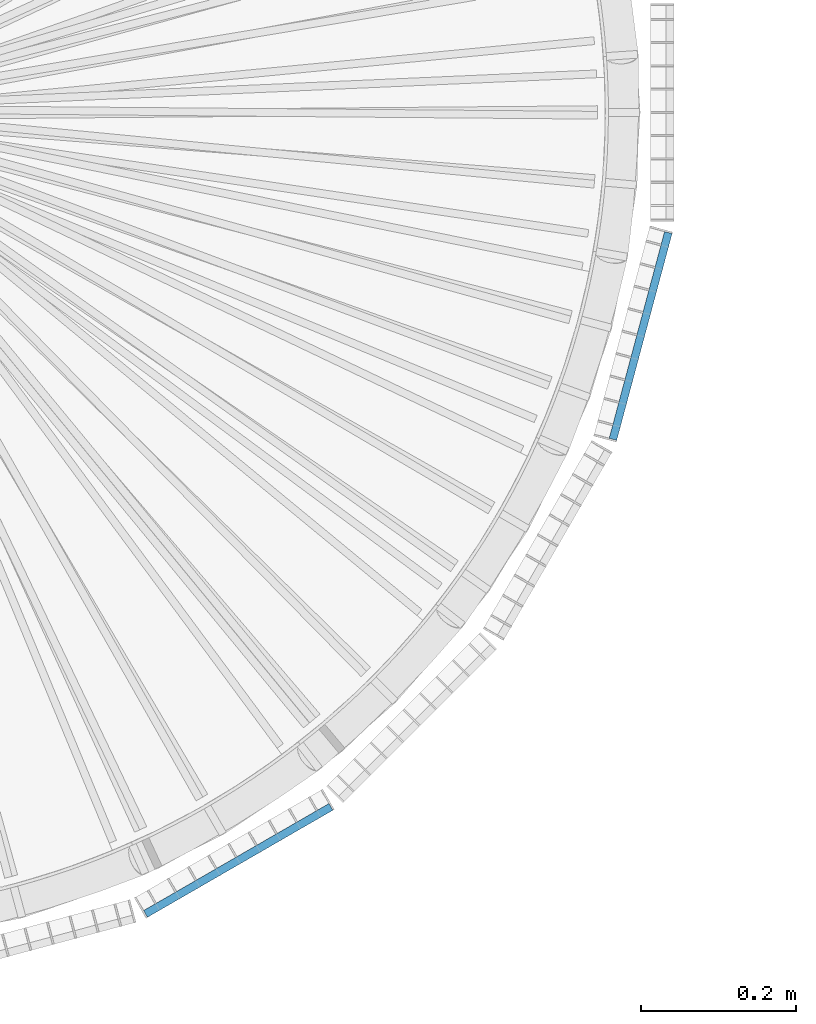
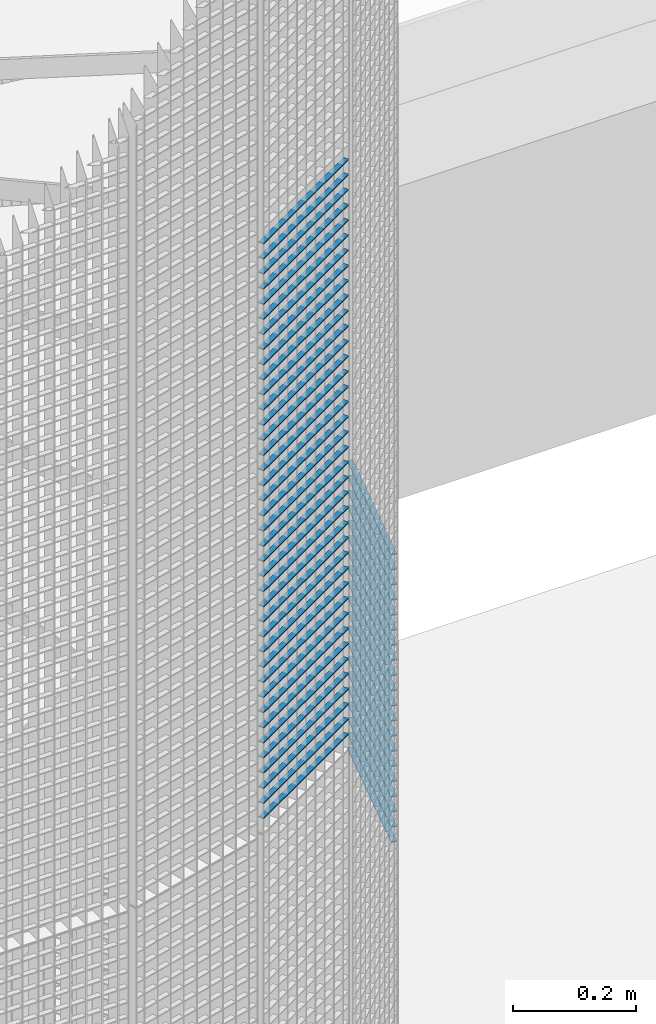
# One storey, part 236 of 1183: 59 beams, 2 elements without a shape of their own.
"""IFC2X3 building model written with IfcOpenShell, lengths in millimetres."""

from ifc_helpers import new_model, si_unit, frame, origin_with_axes, origin_2d_with_axis, place, context, subcontext, project, spatial, rectangle, extrude, material, type_object, element, aggregate, save


model = new_model("IFC2X3")

# Units and contexts
model_context = context("Model", 3, precision=1e-05, world=origin_with_axes())
body_context = subcontext(model_context, "Body", "Model", "MODEL_VIEW")
ifc_project = project(units=[si_unit("LENGTHUNIT", "METRE", prefix="MILLI"), si_unit("AREAUNIT", "SQUARE_METRE"), si_unit("VOLUMEUNIT", "CUBIC_METRE"), si_unit("MASSUNIT", "GRAM", prefix="KILO"), si_unit("TIMEUNIT", "SECOND"), si_unit("PLANEANGLEUNIT", "RADIAN"), si_unit("SOLIDANGLEUNIT", "STERADIAN"), si_unit("THERMODYNAMICTEMPERATUREUNIT", "DEGREE_CELSIUS"), si_unit("LUMINOUSINTENSITYUNIT", "LUMEN")], contexts=[model_context])

# Site, building, storey
site_placement = place(None, origin_with_axes())
site = spatial("IfcSite", under=ifc_project, at=site_placement, Name="Undefined", CompositionType="ELEMENT")
building_placement = place(site_placement, origin_with_axes())
building = spatial("IfcBuilding", under=site, at=building_placement, Name="Undefined", CompositionType="ELEMENT")
storey_placement = place(building_placement, origin_with_axes())
storey = spatial("IfcBuildingStorey", under=building, at=storey_placement, Name="Undefined", CompositionType="ELEMENT", Elevation=0.0)

# Assembly, beams
assembly_1_placement = place(storey_placement, origin_with_axes())
assembly_1 = element("IfcElementAssembly", 1, at=assembly_1_placement, inside=storey, Name="BORDURE", AssemblyPlace="NOTDEFINED", PredefinedType="NOTDEFINED")
ifc_material = material(Name="STEEL/S235JR")
beam_type = type_object("IfcBeamType", Name="PL2*10", PredefinedType="NOTDEFINED")
beam_1_placement = place(assembly_1_placement, frame((437.231955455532, -1033.29996828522, 16170.0), z_axis=(0.499999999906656, -0.866025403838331, 0.0), x_axis=(0.866025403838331, 0.499999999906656, 0.0)))
beam_1 = element("IfcBeam", 2, at=beam_1_placement, type_object=beam_type, material=ifc_material, Name="ENTRETOISE", context=body_context, shape_type="SweptSolid", body=[
    extrude(rectangle(XDim=2.0, YDim=10.0, at=origin_2d_with_axis()), frame((275.999999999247, 9.09494701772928e-13, 1.53210777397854e-14), z_axis=(-1.0, 0.0, 0.0), x_axis=(0.0, -1.0, 0.0)), (0.0, 0.0, 1.0), 276.0),
])
beam_2_placement = place(assembly_1_placement, frame((437.231955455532, -1033.29996828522, 16140.0), z_axis=(0.499999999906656, -0.866025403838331, 0.0), x_axis=(0.866025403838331, 0.499999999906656, 0.0)))
beam_2 = element("IfcBeam", 3, at=beam_2_placement, type_object=beam_type, material=ifc_material, Name="ENTRETOISE", context=body_context, shape_type="SweptSolid", body=[
    extrude(rectangle(XDim=2.0, YDim=10.0, at=origin_2d_with_axis()), frame((275.999999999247, 9.09494701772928e-13, 1.53210777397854e-14), z_axis=(-1.0, 0.0, 0.0), x_axis=(0.0, -1.0, 0.0)), (0.0, 0.0, 1.0), 276.0),
])
beam_3_placement = place(assembly_1_placement, frame((437.231955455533, -1033.29996828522, 15720.0), z_axis=(0.499999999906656, -0.866025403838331, 0.0), x_axis=(0.866025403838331, 0.499999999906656, 0.0)))
beam_3 = element("IfcBeam", 4, at=beam_3_placement, type_object=beam_type, material=ifc_material, Name="ENTRETOISE", context=body_context, shape_type="SweptSolid", body=[
    extrude(rectangle(XDim=2.0, YDim=10.0, at=origin_2d_with_axis()), frame((275.999999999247, 9.09494701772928e-13, 1.53210777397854e-14), z_axis=(-1.0, 0.0, 0.0), x_axis=(0.0, -1.0, 0.0)), (0.0, 0.0, 1.0), 276.0),
])
beam_4_placement = place(assembly_1_placement, frame((437.231955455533, -1033.29996828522, 15690.0), z_axis=(0.499999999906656, -0.866025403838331, 0.0), x_axis=(0.866025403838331, 0.499999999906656, 0.0)))
beam_4 = element("IfcBeam", 5, at=beam_4_placement, type_object=beam_type, material=ifc_material, Name="ENTRETOISE", context=body_context, shape_type="SweptSolid", body=[
    extrude(rectangle(XDim=2.0, YDim=10.0, at=origin_2d_with_axis()), frame((275.999999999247, 9.09494701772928e-13, 1.53210777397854e-14), z_axis=(-1.0, 0.0, 0.0), x_axis=(0.0, -1.0, 0.0)), (0.0, 0.0, 1.0), 276.0),
])
beam_5_placement = place(assembly_1_placement, frame((437.231955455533, -1033.29996828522, 15750.0), z_axis=(0.499999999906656, -0.866025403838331, 0.0), x_axis=(0.866025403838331, 0.499999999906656, 0.0)))
beam_5 = element("IfcBeam", 6, at=beam_5_placement, type_object=beam_type, material=ifc_material, Name="ENTRETOISE", context=body_context, shape_type="SweptSolid", body=[
    extrude(rectangle(XDim=2.0, YDim=10.0, at=origin_2d_with_axis()), frame((275.999999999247, 9.09494701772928e-13, 1.53210777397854e-14), z_axis=(-1.0, 0.0, 0.0), x_axis=(0.0, -1.0, 0.0)), (0.0, 0.0, 1.0), 276.0),
])
beam_6_placement = place(assembly_1_placement, frame((437.231955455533, -1033.29996828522, 15660.0), z_axis=(0.499999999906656, -0.866025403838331, 0.0), x_axis=(0.866025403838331, 0.499999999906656, 0.0)))
beam_6 = element("IfcBeam", 7, at=beam_6_placement, type_object=beam_type, material=ifc_material, Name="ENTRETOISE", context=body_context, shape_type="SweptSolid", body=[
    extrude(rectangle(XDim=2.0, YDim=10.0, at=origin_2d_with_axis()), frame((275.999999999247, 9.09494701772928e-13, 1.53210777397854e-14), z_axis=(-1.0, 0.0, 0.0), x_axis=(0.0, -1.0, 0.0)), (0.0, 0.0, 1.0), 276.0),
])
beam_7_placement = place(assembly_1_placement, frame((437.231955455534, -1033.29996828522, 15630.0), z_axis=(0.499999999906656, -0.866025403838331, 0.0), x_axis=(0.866025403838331, 0.499999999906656, 0.0)))
beam_7 = element("IfcBeam", 8, at=beam_7_placement, type_object=beam_type, material=ifc_material, Name="ENTRETOISE", context=body_context, shape_type="SweptSolid", body=[
    extrude(rectangle(XDim=2.0, YDim=10.0, at=origin_2d_with_axis()), frame((275.999999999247, 9.09494701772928e-13, 1.53210777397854e-14), z_axis=(-1.0, 0.0, 0.0), x_axis=(0.0, -1.0, 0.0)), (0.0, 0.0, 1.0), 276.0),
])
beam_8_placement = place(assembly_1_placement, frame((437.231955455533, -1033.29996828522, 15780.0), z_axis=(0.499999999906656, -0.866025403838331, 0.0), x_axis=(0.866025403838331, 0.499999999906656, 0.0)))
beam_8 = element("IfcBeam", 9, at=beam_8_placement, type_object=beam_type, material=ifc_material, Name="ENTRETOISE", context=body_context, shape_type="SweptSolid", body=[
    extrude(rectangle(XDim=2.0, YDim=10.0, at=origin_2d_with_axis()), frame((275.999999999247, 9.09494701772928e-13, 1.53210777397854e-14), z_axis=(-1.0, 0.0, 0.0), x_axis=(0.0, -1.0, 0.0)), (0.0, 0.0, 1.0), 276.0),
])
beam_9_placement = place(assembly_1_placement, frame((437.231955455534, -1033.29996828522, 15600.0), z_axis=(0.499999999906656, -0.866025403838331, 0.0), x_axis=(0.866025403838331, 0.499999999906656, 0.0)))
beam_9 = element("IfcBeam", 10, at=beam_9_placement, type_object=beam_type, material=ifc_material, Name="ENTRETOISE", context=body_context, shape_type="SweptSolid", body=[
    extrude(rectangle(XDim=2.0, YDim=10.0, at=origin_2d_with_axis()), frame((275.999999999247, 9.09494701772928e-13, 1.53210777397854e-14), z_axis=(-1.0, 0.0, 0.0), x_axis=(0.0, -1.0, 0.0)), (0.0, 0.0, 1.0), 276.0),
])
beam_10_placement = place(assembly_1_placement, frame((437.231955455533, -1033.29996828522, 15810.0), z_axis=(0.499999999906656, -0.866025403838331, 0.0), x_axis=(0.866025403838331, 0.499999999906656, 0.0)))
beam_10 = element("IfcBeam", 11, at=beam_10_placement, type_object=beam_type, material=ifc_material, Name="ENTRETOISE", context=body_context, shape_type="SweptSolid", body=[
    extrude(rectangle(XDim=2.0, YDim=10.0, at=origin_2d_with_axis()), frame((275.999999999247, 9.09494701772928e-13, 1.53210777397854e-14), z_axis=(-1.0, 0.0, 0.0), x_axis=(0.0, -1.0, 0.0)), (0.0, 0.0, 1.0), 276.0),
])
beam_11_placement = place(assembly_1_placement, frame((437.231955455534, -1033.29996828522, 15570.0), z_axis=(0.499999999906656, -0.866025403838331, 0.0), x_axis=(0.866025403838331, 0.499999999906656, 0.0)))
beam_11 = element("IfcBeam", 12, at=beam_11_placement, type_object=beam_type, material=ifc_material, Name="ENTRETOISE", context=body_context, shape_type="SweptSolid", body=[
    extrude(rectangle(XDim=2.0, YDim=10.0, at=origin_2d_with_axis()), frame((275.999999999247, 9.09494701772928e-13, 1.53210777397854e-14), z_axis=(-1.0, 0.0, 0.0), x_axis=(0.0, -1.0, 0.0)), (0.0, 0.0, 1.0), 276.0),
])
beam_12_placement = place(assembly_1_placement, frame((437.231955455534, -1033.29996828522, 15540.0), z_axis=(0.499999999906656, -0.866025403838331, 0.0), x_axis=(0.866025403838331, 0.499999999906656, 0.0)))
beam_12 = element("IfcBeam", 13, at=beam_12_placement, type_object=beam_type, material=ifc_material, Name="ENTRETOISE", context=body_context, shape_type="SweptSolid", body=[
    extrude(rectangle(XDim=2.0, YDim=10.0, at=origin_2d_with_axis()), frame((275.999999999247, 9.09494701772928e-13, 1.53210777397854e-14), z_axis=(-1.0, 0.0, 0.0), x_axis=(0.0, -1.0, 0.0)), (0.0, 0.0, 1.0), 276.0),
])
beam_13_placement = place(assembly_1_placement, frame((437.231955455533, -1033.29996828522, 15840.0), z_axis=(0.499999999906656, -0.866025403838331, 0.0), x_axis=(0.866025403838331, 0.499999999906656, 0.0)))
beam_13 = element("IfcBeam", 14, at=beam_13_placement, type_object=beam_type, material=ifc_material, Name="ENTRETOISE", context=body_context, shape_type="SweptSolid", body=[
    extrude(rectangle(XDim=2.0, YDim=10.0, at=origin_2d_with_axis()), frame((275.999999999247, 9.09494701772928e-13, 1.53210777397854e-14), z_axis=(-1.0, 0.0, 0.0), x_axis=(0.0, -1.0, 0.0)), (0.0, 0.0, 1.0), 276.0),
])
beam_14_placement = place(assembly_1_placement, frame((437.231955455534, -1033.29996828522, 15510.0), z_axis=(0.499999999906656, -0.866025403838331, 0.0), x_axis=(0.866025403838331, 0.499999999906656, 0.0)))
beam_14 = element("IfcBeam", 15, at=beam_14_placement, type_object=beam_type, material=ifc_material, Name="ENTRETOISE", context=body_context, shape_type="SweptSolid", body=[
    extrude(rectangle(XDim=2.0, YDim=10.0, at=origin_2d_with_axis()), frame((275.999999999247, 9.09494701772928e-13, 1.53210777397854e-14), z_axis=(-1.0, 0.0, 0.0), x_axis=(0.0, -1.0, 0.0)), (0.0, 0.0, 1.0), 276.0),
])
beam_15_placement = place(assembly_1_placement, frame((437.231955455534, -1033.29996828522, 15480.0), z_axis=(0.499999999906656, -0.866025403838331, 0.0), x_axis=(0.866025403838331, 0.499999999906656, 0.0)))
beam_15 = element("IfcBeam", 16, at=beam_15_placement, type_object=beam_type, material=ifc_material, Name="ENTRETOISE", context=body_context, shape_type="SweptSolid", body=[
    extrude(rectangle(XDim=2.0, YDim=10.0, at=origin_2d_with_axis()), frame((275.999999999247, 9.09494701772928e-13, 1.53210777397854e-14), z_axis=(-1.0, 0.0, 0.0), x_axis=(0.0, -1.0, 0.0)), (0.0, 0.0, 1.0), 276.0),
])
beam_16_placement = place(assembly_1_placement, frame((437.231955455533, -1033.29996828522, 15870.0), z_axis=(0.499999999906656, -0.866025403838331, 0.0), x_axis=(0.866025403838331, 0.499999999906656, 0.0)))
beam_16 = element("IfcBeam", 17, at=beam_16_placement, type_object=beam_type, material=ifc_material, Name="ENTRETOISE", context=body_context, shape_type="SweptSolid", body=[
    extrude(rectangle(XDim=2.0, YDim=10.0, at=origin_2d_with_axis()), frame((275.999999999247, 9.09494701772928e-13, 1.53210777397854e-14), z_axis=(-1.0, 0.0, 0.0), x_axis=(0.0, -1.0, 0.0)), (0.0, 0.0, 1.0), 276.0),
])
beam_17_placement = place(assembly_1_placement, frame((437.231955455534, -1033.29996828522, 15450.0), z_axis=(0.499999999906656, -0.866025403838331, 0.0), x_axis=(0.866025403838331, 0.499999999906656, 0.0)))
beam_17 = element("IfcBeam", 18, at=beam_17_placement, type_object=beam_type, material=ifc_material, Name="ENTRETOISE", context=body_context, shape_type="SweptSolid", body=[
    extrude(rectangle(XDim=2.0, YDim=10.0, at=origin_2d_with_axis()), frame((275.999999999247, 9.09494701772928e-13, 1.53210777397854e-14), z_axis=(-1.0, 0.0, 0.0), x_axis=(0.0, -1.0, 0.0)), (0.0, 0.0, 1.0), 276.0),
])
beam_18_placement = place(assembly_1_placement, frame((437.231955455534, -1033.29996828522, 15420.0), z_axis=(0.499999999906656, -0.866025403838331, 0.0), x_axis=(0.866025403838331, 0.499999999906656, 0.0)))
beam_18 = element("IfcBeam", 19, at=beam_18_placement, type_object=beam_type, material=ifc_material, Name="ENTRETOISE", context=body_context, shape_type="SweptSolid", body=[
    extrude(rectangle(XDim=2.0, YDim=10.0, at=origin_2d_with_axis()), frame((275.999999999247, 9.09494701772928e-13, 1.53210777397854e-14), z_axis=(-1.0, 0.0, 0.0), x_axis=(0.0, -1.0, 0.0)), (0.0, 0.0, 1.0), 276.0),
])
beam_19_placement = place(assembly_1_placement, frame((437.231955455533, -1033.29996828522, 15900.0), z_axis=(0.499999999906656, -0.866025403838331, 0.0), x_axis=(0.866025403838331, 0.499999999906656, 0.0)))
beam_19 = element("IfcBeam", 20, at=beam_19_placement, type_object=beam_type, material=ifc_material, Name="ENTRETOISE", context=body_context, shape_type="SweptSolid", body=[
    extrude(rectangle(XDim=2.0, YDim=10.0, at=origin_2d_with_axis()), frame((275.999999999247, 9.09494701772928e-13, 1.53210777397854e-14), z_axis=(-1.0, 0.0, 0.0), x_axis=(0.0, -1.0, 0.0)), (0.0, 0.0, 1.0), 276.0),
])
beam_20_placement = place(assembly_1_placement, frame((437.231955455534, -1033.29996828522, 15390.0), z_axis=(0.499999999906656, -0.866025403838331, 0.0), x_axis=(0.866025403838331, 0.499999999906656, 0.0)))
beam_20 = element("IfcBeam", 21, at=beam_20_placement, type_object=beam_type, material=ifc_material, Name="ENTRETOISE", context=body_context, shape_type="SweptSolid", body=[
    extrude(rectangle(XDim=2.0, YDim=10.0, at=origin_2d_with_axis()), frame((275.999999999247, 9.09494701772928e-13, 1.53210777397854e-14), z_axis=(-1.0, 0.0, 0.0), x_axis=(0.0, -1.0, 0.0)), (0.0, 0.0, 1.0), 276.0),
])
beam_21_placement = place(assembly_1_placement, frame((437.231955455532, -1033.29996828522, 15930.0), z_axis=(0.499999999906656, -0.866025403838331, 0.0), x_axis=(0.866025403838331, 0.499999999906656, 0.0)))
beam_21 = element("IfcBeam", 22, at=beam_21_placement, type_object=beam_type, material=ifc_material, Name="ENTRETOISE", context=body_context, shape_type="SweptSolid", body=[
    extrude(rectangle(XDim=2.0, YDim=10.0, at=origin_2d_with_axis()), frame((275.999999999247, 9.09494701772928e-13, 1.53210777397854e-14), z_axis=(-1.0, 0.0, 0.0), x_axis=(0.0, -1.0, 0.0)), (0.0, 0.0, 1.0), 276.0),
])
beam_22_placement = place(assembly_1_placement, frame((437.231955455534, -1033.29996828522, 15360.0), z_axis=(0.499999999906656, -0.866025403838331, 0.0), x_axis=(0.866025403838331, 0.499999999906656, 0.0)))
beam_22 = element("IfcBeam", 23, at=beam_22_placement, type_object=beam_type, material=ifc_material, Name="ENTRETOISE", context=body_context, shape_type="SweptSolid", body=[
    extrude(rectangle(XDim=2.0, YDim=10.0, at=origin_2d_with_axis()), frame((275.999999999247, 9.09494701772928e-13, 1.53210777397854e-14), z_axis=(-1.0, 0.0, 0.0), x_axis=(0.0, -1.0, 0.0)), (0.0, 0.0, 1.0), 276.0),
])
beam_23_placement = place(assembly_1_placement, frame((437.231955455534, -1033.29996828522, 15330.0), z_axis=(0.499999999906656, -0.866025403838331, 0.0), x_axis=(0.866025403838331, 0.499999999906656, 0.0)))
beam_23 = element("IfcBeam", 24, at=beam_23_placement, type_object=beam_type, material=ifc_material, Name="ENTRETOISE", context=body_context, shape_type="SweptSolid", body=[
    extrude(rectangle(XDim=2.0, YDim=10.0, at=origin_2d_with_axis()), frame((275.999999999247, 9.09494701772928e-13, 1.53210777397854e-14), z_axis=(-1.0, 0.0, 0.0), x_axis=(0.0, -1.0, 0.0)), (0.0, 0.0, 1.0), 276.0),
])
beam_24_placement = place(assembly_1_placement, frame((437.231955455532, -1033.29996828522, 15960.0), z_axis=(0.499999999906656, -0.866025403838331, 0.0), x_axis=(0.866025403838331, 0.499999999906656, 0.0)))
beam_24 = element("IfcBeam", 25, at=beam_24_placement, type_object=beam_type, material=ifc_material, Name="ENTRETOISE", context=body_context, shape_type="SweptSolid", body=[
    extrude(rectangle(XDim=2.0, YDim=10.0, at=origin_2d_with_axis()), frame((275.999999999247, 9.09494701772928e-13, 1.53210777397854e-14), z_axis=(-1.0, 0.0, 0.0), x_axis=(0.0, -1.0, 0.0)), (0.0, 0.0, 1.0), 276.0),
])
beam_25_placement = place(assembly_1_placement, frame((437.231955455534, -1033.29996828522, 15300.0), z_axis=(0.499999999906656, -0.866025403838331, 0.0), x_axis=(0.866025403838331, 0.499999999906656, 0.0)))
beam_25 = element("IfcBeam", 26, at=beam_25_placement, type_object=beam_type, material=ifc_material, Name="ENTRETOISE", context=body_context, shape_type="SweptSolid", body=[
    extrude(rectangle(XDim=2.0, YDim=10.0, at=origin_2d_with_axis()), frame((275.999999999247, 9.09494701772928e-13, 1.53210777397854e-14), z_axis=(-1.0, 0.0, 0.0), x_axis=(0.0, -1.0, 0.0)), (0.0, 0.0, 1.0), 276.0),
])
beam_26_placement = place(assembly_1_placement, frame((437.231955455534, -1033.29996828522, 15270.0), z_axis=(0.499999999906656, -0.866025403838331, 0.0), x_axis=(0.866025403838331, 0.499999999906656, 0.0)))
beam_26 = element("IfcBeam", 27, at=beam_26_placement, type_object=beam_type, material=ifc_material, Name="ENTRETOISE", context=body_context, shape_type="SweptSolid", body=[
    extrude(rectangle(XDim=2.0, YDim=10.0, at=origin_2d_with_axis()), frame((275.999999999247, 9.09494701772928e-13, 1.53210777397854e-14), z_axis=(-1.0, 0.0, 0.0), x_axis=(0.0, -1.0, 0.0)), (0.0, 0.0, 1.0), 276.0),
])
beam_27_placement = place(assembly_1_placement, frame((437.231955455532, -1033.29996828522, 15990.0), z_axis=(0.499999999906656, -0.866025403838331, 0.0), x_axis=(0.866025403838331, 0.499999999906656, 0.0)))
beam_27 = element("IfcBeam", 28, at=beam_27_placement, type_object=beam_type, material=ifc_material, Name="ENTRETOISE", context=body_context, shape_type="SweptSolid", body=[
    extrude(rectangle(XDim=2.0, YDim=10.0, at=origin_2d_with_axis()), frame((275.999999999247, 9.09494701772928e-13, 1.53210777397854e-14), z_axis=(-1.0, 0.0, 0.0), x_axis=(0.0, -1.0, 0.0)), (0.0, 0.0, 1.0), 276.0),
])
beam_28_placement = place(assembly_1_placement, frame((437.231955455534, -1033.29996828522, 15240.0), z_axis=(0.499999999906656, -0.866025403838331, 0.0), x_axis=(0.866025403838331, 0.499999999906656, 0.0)))
beam_28 = element("IfcBeam", 29, at=beam_28_placement, type_object=beam_type, material=ifc_material, Name="ENTRETOISE", context=body_context, shape_type="SweptSolid", body=[
    extrude(rectangle(XDim=2.0, YDim=10.0, at=origin_2d_with_axis()), frame((275.999999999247, 9.09494701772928e-13, 1.53210777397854e-14), z_axis=(-1.0, 0.0, 0.0), x_axis=(0.0, -1.0, 0.0)), (0.0, 0.0, 1.0), 276.0),
])
beam_29_placement = place(assembly_1_placement, frame((437.231955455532, -1033.29996828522, 16020.0), z_axis=(0.499999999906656, -0.866025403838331, 0.0), x_axis=(0.866025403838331, 0.499999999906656, 0.0)))
beam_29 = element("IfcBeam", 30, at=beam_29_placement, type_object=beam_type, material=ifc_material, Name="ENTRETOISE", context=body_context, shape_type="SweptSolid", body=[
    extrude(rectangle(XDim=2.0, YDim=10.0, at=origin_2d_with_axis()), frame((275.999999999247, 9.09494701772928e-13, 1.53210777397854e-14), z_axis=(-1.0, 0.0, 0.0), x_axis=(0.0, -1.0, 0.0)), (0.0, 0.0, 1.0), 276.0),
])
beam_30_placement = place(assembly_1_placement, frame((437.231955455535, -1033.29996828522, 15210.0), z_axis=(0.499999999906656, -0.866025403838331, 0.0), x_axis=(0.866025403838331, 0.499999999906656, 0.0)))
beam_30 = element("IfcBeam", 31, at=beam_30_placement, type_object=beam_type, material=ifc_material, Name="ENTRETOISE", context=body_context, shape_type="SweptSolid", body=[
    extrude(rectangle(XDim=2.0, YDim=10.0, at=origin_2d_with_axis()), frame((275.999999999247, 9.09494701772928e-13, 1.53210777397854e-14), z_axis=(-1.0, 0.0, 0.0), x_axis=(0.0, -1.0, 0.0)), (0.0, 0.0, 1.0), 276.0),
])
beam_31_placement = place(assembly_1_placement, frame((437.231955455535, -1033.29996828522, 15180.0), z_axis=(0.499999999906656, -0.866025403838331, 0.0), x_axis=(0.866025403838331, 0.499999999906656, 0.0)))
beam_31 = element("IfcBeam", 32, at=beam_31_placement, type_object=beam_type, material=ifc_material, Name="ENTRETOISE", context=body_context, shape_type="SweptSolid", body=[
    extrude(rectangle(XDim=2.0, YDim=10.0, at=origin_2d_with_axis()), frame((275.999999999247, 9.09494701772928e-13, 1.53210777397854e-14), z_axis=(-1.0, 0.0, 0.0), x_axis=(0.0, -1.0, 0.0)), (0.0, 0.0, 1.0), 276.0),
])
beam_32_placement = place(assembly_1_placement, frame((437.231955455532, -1033.29996828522, 16050.0), z_axis=(0.499999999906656, -0.866025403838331, 0.0), x_axis=(0.866025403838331, 0.499999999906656, 0.0)))
beam_32 = element("IfcBeam", 33, at=beam_32_placement, type_object=beam_type, material=ifc_material, Name="ENTRETOISE", context=body_context, shape_type="SweptSolid", body=[
    extrude(rectangle(XDim=2.0, YDim=10.0, at=origin_2d_with_axis()), frame((275.999999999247, 9.09494701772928e-13, 1.53210777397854e-14), z_axis=(-1.0, 0.0, 0.0), x_axis=(0.0, -1.0, 0.0)), (0.0, 0.0, 1.0), 276.0),
])
beam_33_placement = place(assembly_1_placement, frame((437.231955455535, -1033.29996828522, 15150.0), z_axis=(0.499999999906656, -0.866025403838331, 0.0), x_axis=(0.866025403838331, 0.499999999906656, 0.0)))
beam_33 = element("IfcBeam", 34, at=beam_33_placement, type_object=beam_type, material=ifc_material, Name="ENTRETOISE", context=body_context, shape_type="SweptSolid", body=[
    extrude(rectangle(XDim=2.0, YDim=10.0, at=origin_2d_with_axis()), frame((275.999999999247, 9.09494701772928e-13, 1.53210777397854e-14), z_axis=(-1.0, 0.0, 0.0), x_axis=(0.0, -1.0, 0.0)), (0.0, 0.0, 1.0), 276.0),
])
beam_34_placement = place(assembly_1_placement, frame((437.231955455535, -1033.29996828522, 15120.0), z_axis=(0.499999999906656, -0.866025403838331, 0.0), x_axis=(0.866025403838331, 0.499999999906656, 0.0)))
beam_34 = element("IfcBeam", 35, at=beam_34_placement, type_object=beam_type, material=ifc_material, Name="ENTRETOISE", context=body_context, shape_type="SweptSolid", body=[
    extrude(rectangle(XDim=2.0, YDim=10.0, at=origin_2d_with_axis()), frame((275.999999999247, 9.09494701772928e-13, 1.53210777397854e-14), z_axis=(-1.0, 0.0, 0.0), x_axis=(0.0, -1.0, 0.0)), (0.0, 0.0, 1.0), 276.0),
])
beam_35_placement = place(assembly_1_placement, frame((437.231955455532, -1033.29996828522, 16080.0), z_axis=(0.499999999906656, -0.866025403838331, 0.0), x_axis=(0.866025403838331, 0.499999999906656, 0.0)))
beam_35 = element("IfcBeam", 36, at=beam_35_placement, type_object=beam_type, material=ifc_material, Name="ENTRETOISE", context=body_context, shape_type="SweptSolid", body=[
    extrude(rectangle(XDim=2.0, YDim=10.0, at=origin_2d_with_axis()), frame((275.999999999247, 9.09494701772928e-13, 1.53210777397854e-14), z_axis=(-1.0, 0.0, 0.0), x_axis=(0.0, -1.0, 0.0)), (0.0, 0.0, 1.0), 276.0),
])
beam_36_placement = place(assembly_1_placement, frame((437.231955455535, -1033.29996828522, 15090.0), z_axis=(0.499999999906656, -0.866025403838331, 0.0), x_axis=(0.866025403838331, 0.499999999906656, 0.0)))
beam_36 = element("IfcBeam", 37, at=beam_36_placement, type_object=beam_type, material=ifc_material, Name="ENTRETOISE", context=body_context, shape_type="SweptSolid", body=[
    extrude(rectangle(XDim=2.0, YDim=10.0, at=origin_2d_with_axis()), frame((275.999999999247, 9.09494701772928e-13, 1.53210777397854e-14), z_axis=(-1.0, 0.0, 0.0), x_axis=(0.0, -1.0, 0.0)), (0.0, 0.0, 1.0), 276.0),
])
beam_37_placement = place(assembly_1_placement, frame((437.231955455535, -1033.29996828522, 15060.0), z_axis=(0.499999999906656, -0.866025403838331, 0.0), x_axis=(0.866025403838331, 0.499999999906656, 0.0)))
beam_37 = element("IfcBeam", 38, at=beam_37_placement, type_object=beam_type, material=ifc_material, Name="ENTRETOISE", context=body_context, shape_type="SweptSolid", body=[
    extrude(rectangle(XDim=2.0, YDim=10.0, at=origin_2d_with_axis()), frame((275.999999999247, 9.09494701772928e-13, 1.53210777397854e-14), z_axis=(-1.0, 0.0, 0.0), x_axis=(0.0, -1.0, 0.0)), (0.0, 0.0, 1.0), 276.0),
])
beam_38_placement = place(assembly_1_placement, frame((437.231955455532, -1033.29996828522, 16110.0), z_axis=(0.499999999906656, -0.866025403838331, 0.0), x_axis=(0.866025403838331, 0.499999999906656, 0.0)))
beam_38 = element("IfcBeam", 39, at=beam_38_placement, type_object=beam_type, material=ifc_material, Name="ENTRETOISE", context=body_context, shape_type="SweptSolid", body=[
    extrude(rectangle(XDim=2.0, YDim=10.0, at=origin_2d_with_axis()), frame((275.999999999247, 9.09494701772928e-13, 1.53210777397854e-14), z_axis=(-1.0, 0.0, 0.0), x_axis=(0.0, -1.0, 0.0)), (0.0, 0.0, 1.0), 276.0),
])
beam_39_placement = place(assembly_1_placement, frame((437.231955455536, -1033.29996828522, 15030.0), z_axis=(0.499999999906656, -0.866025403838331, 0.0), x_axis=(0.866025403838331, 0.499999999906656, 0.0)))
beam_39 = element("IfcBeam", 40, at=beam_39_placement, type_object=beam_type, material=ifc_material, Name="ENTRETOISE", context=body_context, shape_type="SweptSolid", body=[
    extrude(rectangle(XDim=2.0, YDim=10.0, at=origin_2d_with_axis()), frame((275.999999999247, 9.09494701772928e-13, 1.53210777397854e-14), z_axis=(-1.0, 0.0, 0.0), x_axis=(0.0, -1.0, 0.0)), (0.0, 0.0, 1.0), 276.0),
])
aggregate(assembly_1, [beam_1, beam_2, beam_3, beam_4, beam_5, beam_6, beam_7, beam_8, beam_9, beam_10, beam_11, beam_12, beam_13, beam_14, beam_15, beam_16, beam_17, beam_18, beam_19, beam_20, beam_21, beam_22, beam_23, beam_24, beam_25, beam_26, beam_27, beam_28, beam_29, beam_30, beam_31, beam_32, beam_33, beam_34, beam_35, beam_36, beam_37, beam_38, beam_39])

assembly_2_placement = place(storey_placement, origin_with_axes())
assembly_2 = element("IfcElementAssembly", 41, at=assembly_2_placement, inside=storey, Name="BORDURE", AssemblyPlace="NOTDEFINED", PredefinedType="NOTDEFINED")
beam_40_placement = place(assembly_2_placement, frame((1039.82309522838, -421.483733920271, 14970.0), z_axis=(0.965925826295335, -0.258819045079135, 0.0), x_axis=(0.258819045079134, 0.965925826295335, 0.0)))
beam_40 = element("IfcBeam", 42, at=beam_40_placement, type_object=beam_type, material=ifc_material, Name="ENTRETOISE", context=body_context, shape_type="SweptSolid", body=[
    extrude(rectangle(XDim=2.0, YDim=10.0, at=origin_2d_with_axis()), frame((275.999999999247, 9.09494701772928e-13, 1.53210777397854e-14), z_axis=(-1.0, 0.0, 0.0), x_axis=(0.0, -1.0, 0.0)), (0.0, 0.0, 1.0), 276.0),
])
beam_41_placement = place(assembly_2_placement, frame((1039.82309522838, -421.483733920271, 14940.0), z_axis=(0.965925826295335, -0.258819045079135, 0.0), x_axis=(0.258819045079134, 0.965925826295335, 0.0)))
beam_41 = element("IfcBeam", 43, at=beam_41_placement, type_object=beam_type, material=ifc_material, Name="ENTRETOISE", context=body_context, shape_type="SweptSolid", body=[
    extrude(rectangle(XDim=2.0, YDim=10.0, at=origin_2d_with_axis()), frame((275.999999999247, 9.09494701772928e-13, 1.53210777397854e-14), z_axis=(-1.0, 0.0, 0.0), x_axis=(0.0, -1.0, 0.0)), (0.0, 0.0, 1.0), 276.0),
])
beam_42_placement = place(assembly_2_placement, frame((1039.82309522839, -421.483733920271, 14910.0), z_axis=(0.965925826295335, -0.258819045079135, 0.0), x_axis=(0.258819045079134, 0.965925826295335, 0.0)))
beam_42 = element("IfcBeam", 44, at=beam_42_placement, type_object=beam_type, material=ifc_material, Name="ENTRETOISE", context=body_context, shape_type="SweptSolid", body=[
    extrude(rectangle(XDim=2.0, YDim=10.0, at=origin_2d_with_axis()), frame((275.999999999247, 9.09494701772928e-13, 1.53210777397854e-14), z_axis=(-1.0, 0.0, 0.0), x_axis=(0.0, -1.0, 0.0)), (0.0, 0.0, 1.0), 276.0),
])
beam_43_placement = place(assembly_2_placement, frame((1039.82309522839, -421.483733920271, 14880.0), z_axis=(0.965925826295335, -0.258819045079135, 0.0), x_axis=(0.258819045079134, 0.965925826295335, 0.0)))
beam_43 = element("IfcBeam", 45, at=beam_43_placement, type_object=beam_type, material=ifc_material, Name="ENTRETOISE", context=body_context, shape_type="SweptSolid", body=[
    extrude(rectangle(XDim=2.0, YDim=10.0, at=origin_2d_with_axis()), frame((275.999999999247, 9.09494701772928e-13, 1.53210777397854e-14), z_axis=(-1.0, 0.0, 0.0), x_axis=(0.0, -1.0, 0.0)), (0.0, 0.0, 1.0), 276.0),
])
beam_44_placement = place(assembly_2_placement, frame((1039.82309522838, -421.483733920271, 14850.0), z_axis=(0.965925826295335, -0.258819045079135, 0.0), x_axis=(0.258819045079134, 0.965925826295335, 0.0)))
beam_44 = element("IfcBeam", 46, at=beam_44_placement, type_object=beam_type, material=ifc_material, Name="ENTRETOISE", context=body_context, shape_type="SweptSolid", body=[
    extrude(rectangle(XDim=2.0, YDim=10.0, at=origin_2d_with_axis()), frame((275.999999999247, 9.09494701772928e-13, 1.53210777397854e-14), z_axis=(-1.0, 0.0, 0.0), x_axis=(0.0, -1.0, 0.0)), (0.0, 0.0, 1.0), 276.0),
])
beam_45_placement = place(assembly_2_placement, frame((1039.82309522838, -421.483733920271, 14820.0), z_axis=(0.965925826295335, -0.258819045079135, 0.0), x_axis=(0.258819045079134, 0.965925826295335, 0.0)))
beam_45 = element("IfcBeam", 47, at=beam_45_placement, type_object=beam_type, material=ifc_material, Name="ENTRETOISE", context=body_context, shape_type="SweptSolid", body=[
    extrude(rectangle(XDim=2.0, YDim=10.0, at=origin_2d_with_axis()), frame((275.999999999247, 9.09494701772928e-13, 1.53210777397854e-14), z_axis=(-1.0, 0.0, 0.0), x_axis=(0.0, -1.0, 0.0)), (0.0, 0.0, 1.0), 276.0),
])
beam_46_placement = place(assembly_2_placement, frame((1039.82309522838, -421.483733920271, 14790.0), z_axis=(0.965925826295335, -0.258819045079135, 0.0), x_axis=(0.258819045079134, 0.965925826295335, 0.0)))
beam_46 = element("IfcBeam", 48, at=beam_46_placement, type_object=beam_type, material=ifc_material, Name="ENTRETOISE", context=body_context, shape_type="SweptSolid", body=[
    extrude(rectangle(XDim=2.0, YDim=10.0, at=origin_2d_with_axis()), frame((275.999999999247, 9.09494701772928e-13, 1.53210777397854e-14), z_axis=(-1.0, 0.0, 0.0), x_axis=(0.0, -1.0, 0.0)), (0.0, 0.0, 1.0), 276.0),
])
beam_47_placement = place(assembly_2_placement, frame((1039.82309522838, -421.483733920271, 14760.0), z_axis=(0.965925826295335, -0.258819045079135, 0.0), x_axis=(0.258819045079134, 0.965925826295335, 0.0)))
beam_47 = element("IfcBeam", 49, at=beam_47_placement, type_object=beam_type, material=ifc_material, Name="ENTRETOISE", context=body_context, shape_type="SweptSolid", body=[
    extrude(rectangle(XDim=2.0, YDim=10.0, at=origin_2d_with_axis()), frame((275.999999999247, 9.09494701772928e-13, 1.53210777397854e-14), z_axis=(-1.0, 0.0, 0.0), x_axis=(0.0, -1.0, 0.0)), (0.0, 0.0, 1.0), 276.0),
])
beam_48_placement = place(assembly_2_placement, frame((1039.82309522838, -421.48373392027, 14730.0), z_axis=(0.965925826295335, -0.258819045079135, 0.0), x_axis=(0.258819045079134, 0.965925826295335, 0.0)))
beam_48 = element("IfcBeam", 50, at=beam_48_placement, type_object=beam_type, material=ifc_material, Name="ENTRETOISE", context=body_context, shape_type="SweptSolid", body=[
    extrude(rectangle(XDim=2.0, YDim=10.0, at=origin_2d_with_axis()), frame((275.999999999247, 9.09494701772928e-13, 1.53210777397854e-14), z_axis=(-1.0, 0.0, 0.0), x_axis=(0.0, -1.0, 0.0)), (0.0, 0.0, 1.0), 276.0),
])
beam_49_placement = place(assembly_2_placement, frame((1039.82309522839, -421.48373392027, 14700.0), z_axis=(0.965925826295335, -0.258819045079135, 0.0), x_axis=(0.258819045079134, 0.965925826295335, 0.0)))
beam_49 = element("IfcBeam", 51, at=beam_49_placement, type_object=beam_type, material=ifc_material, Name="ENTRETOISE", context=body_context, shape_type="SweptSolid", body=[
    extrude(rectangle(XDim=2.0, YDim=10.0, at=origin_2d_with_axis()), frame((275.999999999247, 9.09494701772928e-13, 1.53210777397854e-14), z_axis=(-1.0, 0.0, 0.0), x_axis=(0.0, -1.0, 0.0)), (0.0, 0.0, 1.0), 276.0),
])
beam_50_placement = place(assembly_2_placement, frame((1039.82309522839, -421.48373392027, 14670.0), z_axis=(0.965925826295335, -0.258819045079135, 0.0), x_axis=(0.258819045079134, 0.965925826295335, 0.0)))
beam_50 = element("IfcBeam", 52, at=beam_50_placement, type_object=beam_type, material=ifc_material, Name="ENTRETOISE", context=body_context, shape_type="SweptSolid", body=[
    extrude(rectangle(XDim=2.0, YDim=10.0, at=origin_2d_with_axis()), frame((275.999999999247, 9.09494701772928e-13, 1.53210777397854e-14), z_axis=(-1.0, 0.0, 0.0), x_axis=(0.0, -1.0, 0.0)), (0.0, 0.0, 1.0), 276.0),
])
beam_51_placement = place(assembly_2_placement, frame((1039.82309522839, -421.48373392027, 14640.0), z_axis=(0.965925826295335, -0.258819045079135, 0.0), x_axis=(0.258819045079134, 0.965925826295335, 0.0)))
beam_51 = element("IfcBeam", 53, at=beam_51_placement, type_object=beam_type, material=ifc_material, Name="ENTRETOISE", context=body_context, shape_type="SweptSolid", body=[
    extrude(rectangle(XDim=2.0, YDim=10.0, at=origin_2d_with_axis()), frame((275.999999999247, 9.09494701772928e-13, 1.53210777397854e-14), z_axis=(-1.0, 0.0, 0.0), x_axis=(0.0, -1.0, 0.0)), (0.0, 0.0, 1.0), 276.0),
])
beam_52_placement = place(assembly_2_placement, frame((1039.82309522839, -421.48373392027, 14610.0), z_axis=(0.965925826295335, -0.258819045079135, 0.0), x_axis=(0.258819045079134, 0.965925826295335, 0.0)))
beam_52 = element("IfcBeam", 54, at=beam_52_placement, type_object=beam_type, material=ifc_material, Name="ENTRETOISE", context=body_context, shape_type="SweptSolid", body=[
    extrude(rectangle(XDim=2.0, YDim=10.0, at=origin_2d_with_axis()), frame((275.999999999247, 9.09494701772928e-13, 1.53210777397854e-14), z_axis=(-1.0, 0.0, 0.0), x_axis=(0.0, -1.0, 0.0)), (0.0, 0.0, 1.0), 276.0),
])
beam_53_placement = place(assembly_2_placement, frame((1039.82309522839, -421.48373392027, 14580.0), z_axis=(0.965925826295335, -0.258819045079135, 0.0), x_axis=(0.258819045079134, 0.965925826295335, 0.0)))
beam_53 = element("IfcBeam", 55, at=beam_53_placement, type_object=beam_type, material=ifc_material, Name="ENTRETOISE", context=body_context, shape_type="SweptSolid", body=[
    extrude(rectangle(XDim=2.0, YDim=10.0, at=origin_2d_with_axis()), frame((275.999999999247, 9.09494701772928e-13, 1.53210777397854e-14), z_axis=(-1.0, 0.0, 0.0), x_axis=(0.0, -1.0, 0.0)), (0.0, 0.0, 1.0), 276.0),
])
beam_54_placement = place(assembly_2_placement, frame((1039.82309522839, -421.48373392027, 14550.0), z_axis=(0.965925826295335, -0.258819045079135, 0.0), x_axis=(0.258819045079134, 0.965925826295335, 0.0)))
beam_54 = element("IfcBeam", 56, at=beam_54_placement, type_object=beam_type, material=ifc_material, Name="ENTRETOISE", context=body_context, shape_type="SweptSolid", body=[
    extrude(rectangle(XDim=2.0, YDim=10.0, at=origin_2d_with_axis()), frame((275.999999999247, 9.09494701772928e-13, 1.53210777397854e-14), z_axis=(-1.0, 0.0, 0.0), x_axis=(0.0, -1.0, 0.0)), (0.0, 0.0, 1.0), 276.0),
])
beam_55_placement = place(assembly_2_placement, frame((1039.82309522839, -421.48373392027, 14520.0), z_axis=(0.965925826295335, -0.258819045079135, 0.0), x_axis=(0.258819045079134, 0.965925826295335, 0.0)))
beam_55 = element("IfcBeam", 57, at=beam_55_placement, type_object=beam_type, material=ifc_material, Name="ENTRETOISE", context=body_context, shape_type="SweptSolid", body=[
    extrude(rectangle(XDim=2.0, YDim=10.0, at=origin_2d_with_axis()), frame((275.999999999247, 9.09494701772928e-13, 1.53210777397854e-14), z_axis=(-1.0, 0.0, 0.0), x_axis=(0.0, -1.0, 0.0)), (0.0, 0.0, 1.0), 276.0),
])
beam_56_placement = place(assembly_2_placement, frame((1039.82309522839, -421.48373392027, 14490.0), z_axis=(0.965925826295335, -0.258819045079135, 0.0), x_axis=(0.258819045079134, 0.965925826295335, 0.0)))
beam_56 = element("IfcBeam", 58, at=beam_56_placement, type_object=beam_type, material=ifc_material, Name="ENTRETOISE", context=body_context, shape_type="SweptSolid", body=[
    extrude(rectangle(XDim=2.0, YDim=10.0, at=origin_2d_with_axis()), frame((275.999999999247, 9.09494701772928e-13, 1.53210777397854e-14), z_axis=(-1.0, 0.0, 0.0), x_axis=(0.0, -1.0, 0.0)), (0.0, 0.0, 1.0), 276.0),
])
beam_57_placement = place(assembly_2_placement, frame((1039.82309522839, -421.483733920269, 14460.0), z_axis=(0.965925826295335, -0.258819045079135, 0.0), x_axis=(0.258819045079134, 0.965925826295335, 0.0)))
beam_57 = element("IfcBeam", 59, at=beam_57_placement, type_object=beam_type, material=ifc_material, Name="ENTRETOISE", context=body_context, shape_type="SweptSolid", body=[
    extrude(rectangle(XDim=2.0, YDim=10.0, at=origin_2d_with_axis()), frame((275.999999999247, 9.09494701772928e-13, 1.53210777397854e-14), z_axis=(-1.0, 0.0, 0.0), x_axis=(0.0, -1.0, 0.0)), (0.0, 0.0, 1.0), 276.0),
])
beam_58_placement = place(assembly_2_placement, frame((1039.82309522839, -421.483733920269, 14430.0), z_axis=(0.965925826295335, -0.258819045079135, 0.0), x_axis=(0.258819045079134, 0.965925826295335, 0.0)))
beam_58 = element("IfcBeam", 60, at=beam_58_placement, type_object=beam_type, material=ifc_material, Name="ENTRETOISE", context=body_context, shape_type="SweptSolid", body=[
    extrude(rectangle(XDim=2.0, YDim=10.0, at=origin_2d_with_axis()), frame((275.999999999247, 9.09494701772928e-13, 1.53210777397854e-14), z_axis=(-1.0, 0.0, 0.0), x_axis=(0.0, -1.0, 0.0)), (0.0, 0.0, 1.0), 276.0),
])
beam_59_placement = place(assembly_2_placement, frame((1039.82309522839, -421.483733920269, 14400.0), z_axis=(0.965925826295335, -0.258819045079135, 0.0), x_axis=(0.258819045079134, 0.965925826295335, 0.0)))
beam_59 = element("IfcBeam", 61, at=beam_59_placement, type_object=beam_type, material=ifc_material, Name="ENTRETOISE", context=body_context, shape_type="SweptSolid", body=[
    extrude(rectangle(XDim=2.0, YDim=10.0, at=origin_2d_with_axis()), frame((275.999999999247, 9.09494701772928e-13, 1.53210777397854e-14), z_axis=(-1.0, 0.0, 0.0), x_axis=(0.0, -1.0, 0.0)), (0.0, 0.0, 1.0), 276.0),
])
aggregate(assembly_2, [beam_40, beam_41, beam_42, beam_43, beam_44, beam_45, beam_46, beam_47, beam_48, beam_49, beam_50, beam_51, beam_52, beam_53, beam_54, beam_55, beam_56, beam_57, beam_58, beam_59])

save(model, "model.ifc")
